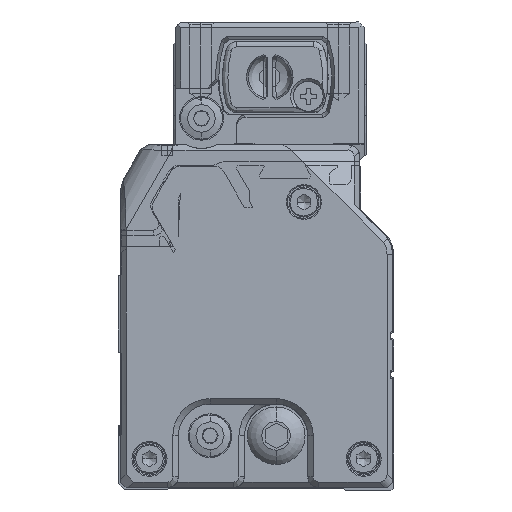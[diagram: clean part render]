
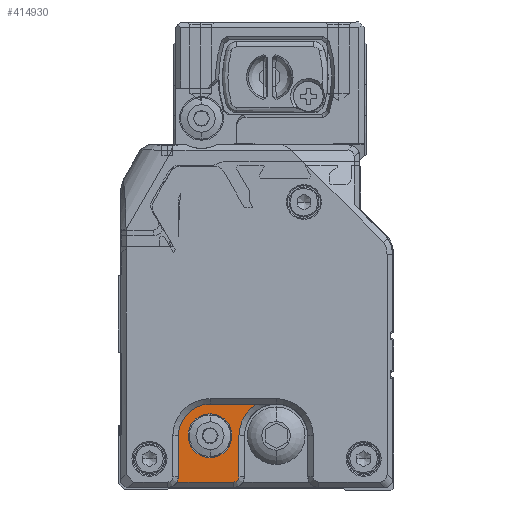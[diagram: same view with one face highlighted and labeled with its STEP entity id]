
A CAD part, left-side view. The second image highlights one B-rep face of the part: STEP entity #414930.
In plain terms, the highlighted planar face has unit normal (-1, 0, 0) as drawn and (1, 0, 0) by its records, which use the part's own axes.
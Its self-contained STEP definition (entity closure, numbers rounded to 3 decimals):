
#301510=CARTESIAN_POINT('',(664.177,4.212,
11.598));
#301520=DIRECTION('',(0.,-1.,0.));
#301530=VECTOR('',#301520,1.);
#301540=LINE('',#301510,#301530);
#301550=CARTESIAN_POINT('',(664.177,8.48,
11.598));
#301560=VERTEX_POINT('',#301550);
#301570=CARTESIAN_POINT('',(664.177,-1.788,
11.598));
#301580=VERTEX_POINT('',#301570);
#301590=EDGE_CURVE('',#301560,#301580,#301540,.T.);
#342790=CARTESIAN_POINT('',(664.177,2.462,
-0.852));
#342800=VERTEX_POINT('',#342790);
#342850=CARTESIAN_POINT('',(664.177,2.462,
3.148));
#342860=DIRECTION('',(-1.,0.,0.));
#342870=DIRECTION('',(0.,0.,-1.));
#342880=AXIS2_PLACEMENT_3D('',#342850,#342860,#342870);
#342890=CIRCLE('',#342880,4.);
#342900=CARTESIAN_POINT('',(664.177,2.462,
7.148));
#342910=VERTEX_POINT('',#342900);
#342920=EDGE_CURVE('',#342800,#342910,#342890,.T.);
#355130=CARTESIAN_POINT('',(664.177,8.212,
10.598));
#355140=VERTEX_POINT('',#355130);
#355170=CARTESIAN_POINT('',(664.177,10.212,
10.598));
#355180=DIRECTION('',(-1.,0.,0.));
#355190=DIRECTION('',(0.,1.,0.));
#355200=AXIS2_PLACEMENT_3D('',#355170,#355180,#355190);
#355210=CIRCLE('',#355200,2.);
#355220=EDGE_CURVE('',#355140,#301560,#355210,.T.);
#400190=CARTESIAN_POINT('',(664.177,-1.788,
10.598));
#400200=DIRECTION('',(-1.,0.,0.));
#400210=DIRECTION('',(0.,1.,0.));
#400220=AXIS2_PLACEMENT_3D('',#400190,#400200,#400210);
#400230=CIRCLE('',#400220,1.);
#400240=CARTESIAN_POINT('',(664.177,-2.788,
10.598));
#400250=VERTEX_POINT('',#400240);
#400260=EDGE_CURVE('',#400250,#301580,#400230,.T.);
#407000=CARTESIAN_POINT('',(664.177,-6.002,
-2.602));
#407010=VERTEX_POINT('',#407000);
#407040=CARTESIAN_POINT('',(664.177,-5.888,
-2.602));
#407050=DIRECTION('',(0.,1.,0.));
#407060=VECTOR('',#407050,1.);
#407070=LINE('',#407040,#407060);
#407080=CARTESIAN_POINT('',(664.177,2.462,
-2.602));
#407090=VERTEX_POINT('',#407080);
#407100=EDGE_CURVE('',#407010,#407090,#407070,.T.);
#414470=CARTESIAN_POINT('',(664.177,-5.938,
-12.8));
#414480=DIRECTION('',(-1.,0.,0.));
#414490=DIRECTION('',(0.,0.,-1.));
#414500=AXIS2_PLACEMENT_3D('',#414470,#414480,#414490);
#414510=PLANE('',#414500);
#414520=ORIENTED_EDGE('',*,*,#301590,.T.);
#414530=ORIENTED_EDGE('',*,*,#355220,.T.);
#414540=CARTESIAN_POINT('',(664.177,8.212,
3.148));
#414550=DIRECTION('',(0.,0.,1.));
#414560=VECTOR('',#414550,1.);
#414570=LINE('',#414540,#414560);
#414580=CARTESIAN_POINT('',(664.177,8.212,
3.148));
#414590=VERTEX_POINT('',#414580);
#414600=EDGE_CURVE('',#414590,#355140,#414570,.T.);
#414610=ORIENTED_EDGE('',*,*,#414600,.T.);
#414620=CARTESIAN_POINT('',(664.177,2.462,
3.148));
#414630=DIRECTION('',(-1.,0.,0.));
#414640=DIRECTION('',(0.,1.,0.));
#414650=AXIS2_PLACEMENT_3D('',#414620,#414630,#414640);
#414660=CIRCLE('',#414650,5.75);
#414670=EDGE_CURVE('',#414590,#407090,#414660,.T.);
#414680=ORIENTED_EDGE('',*,*,#414670,.F.);
#414690=ORIENTED_EDGE('',*,*,#407100,.T.);
#414700=CARTESIAN_POINT('',(664.177,-9.538,
3.148));
#414710=DIRECTION('',(-1.,0.,0.));
#414720=DIRECTION('',(0.,1.,0.));
#414730=AXIS2_PLACEMENT_3D('',#414700,#414710,#414720);
#414740=CIRCLE('',#414730,6.75);
#414750=CARTESIAN_POINT('',(664.177,-2.788,
3.148));
#414760=VERTEX_POINT('',#414750);
#414770=EDGE_CURVE('',#414760,#407010,#414740,.T.);
#414780=ORIENTED_EDGE('',*,*,#414770,.T.);
#414790=CARTESIAN_POINT('',(664.177,-2.788,
6.873));
#414800=DIRECTION('',(0.,0.,-1.));
#414810=VECTOR('',#414800,1.);
#414820=LINE('',#414790,#414810);
#414830=EDGE_CURVE('',#400250,#414760,#414820,.T.);
#414840=ORIENTED_EDGE('',*,*,#414830,.T.);
#414850=ORIENTED_EDGE('',*,*,#400260,.F.);
#414860=EDGE_LOOP('',(#414850,#414840,#414780,#414690,#414680,#414610,
#414530,#414520));
#414870=FACE_OUTER_BOUND('',#414860,.T.);
#414880=ORIENTED_EDGE('',*,*,#342920,.T.);
#414890=EDGE_CURVE('',#342910,#342800,#342890,.T.);
#414900=ORIENTED_EDGE('',*,*,#414890,.T.);
#414910=EDGE_LOOP('',(#414900,#414880));
#414920=FACE_BOUND('',#414910,.T.);
#414930=ADVANCED_FACE('',(#414870,#414920),#414510,.F.);
